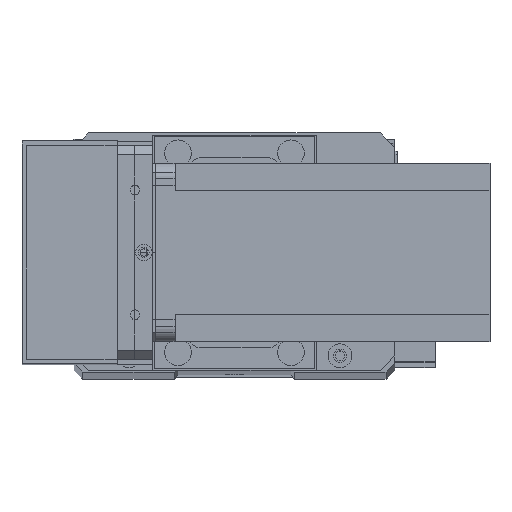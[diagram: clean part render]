
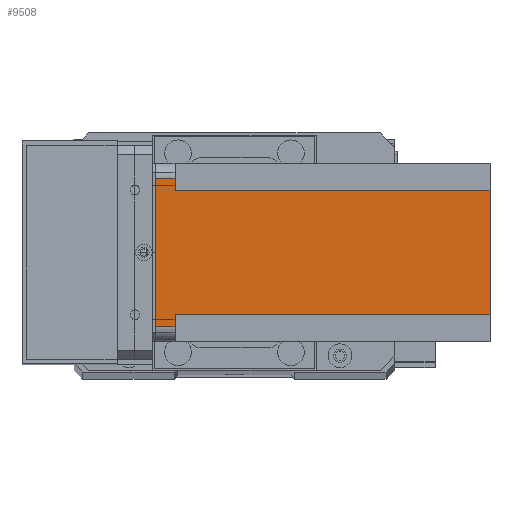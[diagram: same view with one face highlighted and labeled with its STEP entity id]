
A CAD part, top view. The second image highlights one B-rep face of the part: STEP entity #9508.
In plain terms, the highlighted planar face has unit normal (0, 0, 1) as drawn and (1, 0, 0) by its records, which use the part's own axes.
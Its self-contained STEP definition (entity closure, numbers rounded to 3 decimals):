
#1024 = VERTEX_POINT ( 'NONE', #10227 ) ;
#1558 = CARTESIAN_POINT ( 'NONE',  ( 60., 0., -6.5 ) ) ;
#1640 = EDGE_CURVE ( 'NONE', #17634, #27449, #2693, .T. ) ;
#1944 = VECTOR ( 'NONE', #5561, 1000. ) ;
#2417 = CARTESIAN_POINT ( 'NONE',  ( 60., 5., 0. ) ) ;
#2693 = LINE ( 'NONE', #24926, #14689 ) ;
#3941 = PLANE ( 'NONE',  #6949 ) ;
#4130 = ORIENTED_EDGE ( 'NONE', *, *, #1640, .F. ) ;
#4280 = VERTEX_POINT ( 'NONE', #9280 ) ;
#5129 = ORIENTED_EDGE ( 'NONE', *, *, #20051, .T. ) ;
#5465 = CARTESIAN_POINT ( 'NONE',  ( 60., 0., 0. ) ) ;
#5561 = DIRECTION ( 'NONE',  ( 0., 1., 0. ) ) ;
#5568 = LINE ( 'NONE', #20390, #11172 ) ;
#6268 = CARTESIAN_POINT ( 'NONE',  ( 60., 0., -112.5 ) ) ;
#6348 = DIRECTION ( 'NONE',  ( 0., 1., 0. ) ) ;
#6473 = CARTESIAN_POINT ( 'NONE',  ( 60., 9., -6.5 ) ) ;
#6495 = VERTEX_POINT ( 'NONE', #14272 ) ;
#6657 = CARTESIAN_POINT ( 'NONE',  ( 60., 55., -6.5 ) ) ;
#6949 = AXIS2_PLACEMENT_3D ( 'NONE', #11067, #20627, #6348 ) ;
#8200 = VECTOR ( 'NONE', #30151, 1000. ) ;
#8330 = LINE ( 'NONE', #5465, #1944 ) ;
#8499 = DIRECTION ( 'NONE',  ( 0., 0., 1. ) ) ;
#8992 = VECTOR ( 'NONE', #26697, 1000. ) ;
#9280 = CARTESIAN_POINT ( 'NONE',  ( 60., 51., -112.5 ) ) ;
#9508 = ADVANCED_FACE ( 'NONE', ( #17131 ), #3941, .T. ) ;
#10024 = ORIENTED_EDGE ( 'NONE', *, *, #28218, .T. ) ;
#10193 = LINE ( 'NONE', #6268, #23574 ) ;
#10227 = CARTESIAN_POINT ( 'NONE',  ( 60., 9., -112.5 ) ) ;
#11067 = CARTESIAN_POINT ( 'NONE',  ( 60., 0., -112.5 ) ) ;
#11172 = VECTOR ( 'NONE', #8499, 1000. ) ;
#11351 = CARTESIAN_POINT ( 'NONE',  ( 60., 51., -112.5 ) ) ;
#12810 = ORIENTED_EDGE ( 'NONE', *, *, #21816, .F. ) ;
#14200 = DIRECTION ( 'NONE',  ( 0., -1., 0. ) ) ;
#14272 = CARTESIAN_POINT ( 'NONE',  ( 60., 55., 0. ) ) ;
#14689 = VECTOR ( 'NONE', #14200, 1000. ) ;
#14887 = VERTEX_POINT ( 'NONE', #6473 ) ;
#15357 = LINE ( 'NONE', #1558, #8200 ) ;
#16699 = ORIENTED_EDGE ( 'NONE', *, *, #26434, .F. ) ;
#16874 = EDGE_CURVE ( 'NONE', #1024, #14887, #5568, .T. ) ;
#17131 = FACE_OUTER_BOUND ( 'NONE', #26441, .T. ) ;
#17634 = VERTEX_POINT ( 'NONE', #6657 ) ;
#18546 = DIRECTION ( 'NONE',  ( 0., 0., -1. ) ) ;
#19291 = ORIENTED_EDGE ( 'NONE', *, *, #16874, .F. ) ;
#19547 = ORIENTED_EDGE ( 'NONE', *, *, #19874, .F. ) ;
#19874 = EDGE_CURVE ( 'NONE', #24790, #6495, #8330, .T. ) ;
#20051 = EDGE_CURVE ( 'NONE', #1024, #4280, #10193, .T. ) ;
#20390 = CARTESIAN_POINT ( 'NONE',  ( 60., 9., -112.5 ) ) ;
#20627 = DIRECTION ( 'NONE',  ( 1., 0., 0. ) ) ;
#21014 = LINE ( 'NONE', #11351, #26643 ) ;
#21196 = EDGE_CURVE ( 'NONE', #17634, #6495, #26134, .T. ) ;
#21816 = EDGE_CURVE ( 'NONE', #14887, #26916, #15357, .T. ) ;
#22407 = LINE ( 'NONE', #24261, #8992 ) ;
#22929 = DIRECTION ( 'NONE',  ( 0., 1., 0. ) ) ;
#23574 = VECTOR ( 'NONE', #22929, 1000. ) ;
#24261 = CARTESIAN_POINT ( 'NONE',  ( 60., 5., -112.5 ) ) ;
#24790 = VERTEX_POINT ( 'NONE', #2417 ) ;
#24926 = CARTESIAN_POINT ( 'NONE',  ( 60., 60., -6.5 ) ) ;
#25256 = CARTESIAN_POINT ( 'NONE',  ( 60., 5., -6.5 ) ) ;
#25401 = VECTOR ( 'NONE', #28005, 1000. ) ;
#25590 = CARTESIAN_POINT ( 'NONE',  ( 60., 55., -112.5 ) ) ;
#26134 = LINE ( 'NONE', #25590, #25401 ) ;
#26434 = EDGE_CURVE ( 'NONE', #27449, #4280, #21014, .T. ) ;
#26441 = EDGE_LOOP ( 'NONE', ( #4130, #27254, #19547, #10024, #12810, #19291, #5129, #16699 ) ) ;
#26643 = VECTOR ( 'NONE', #18546, 1000. ) ;
#26697 = DIRECTION ( 'NONE',  ( 0., 0., -1. ) ) ;
#26916 = VERTEX_POINT ( 'NONE', #25256 ) ;
#27254 = ORIENTED_EDGE ( 'NONE', *, *, #21196, .T. ) ;
#27449 = VERTEX_POINT ( 'NONE', #29728 ) ;
#28005 = DIRECTION ( 'NONE',  ( 0., 0., 1. ) ) ;
#28218 = EDGE_CURVE ( 'NONE', #24790, #26916, #22407, .T. ) ;
#29728 = CARTESIAN_POINT ( 'NONE',  ( 60., 51., -6.5 ) ) ;
#30151 = DIRECTION ( 'NONE',  ( 0., -1., 0. ) ) ;
